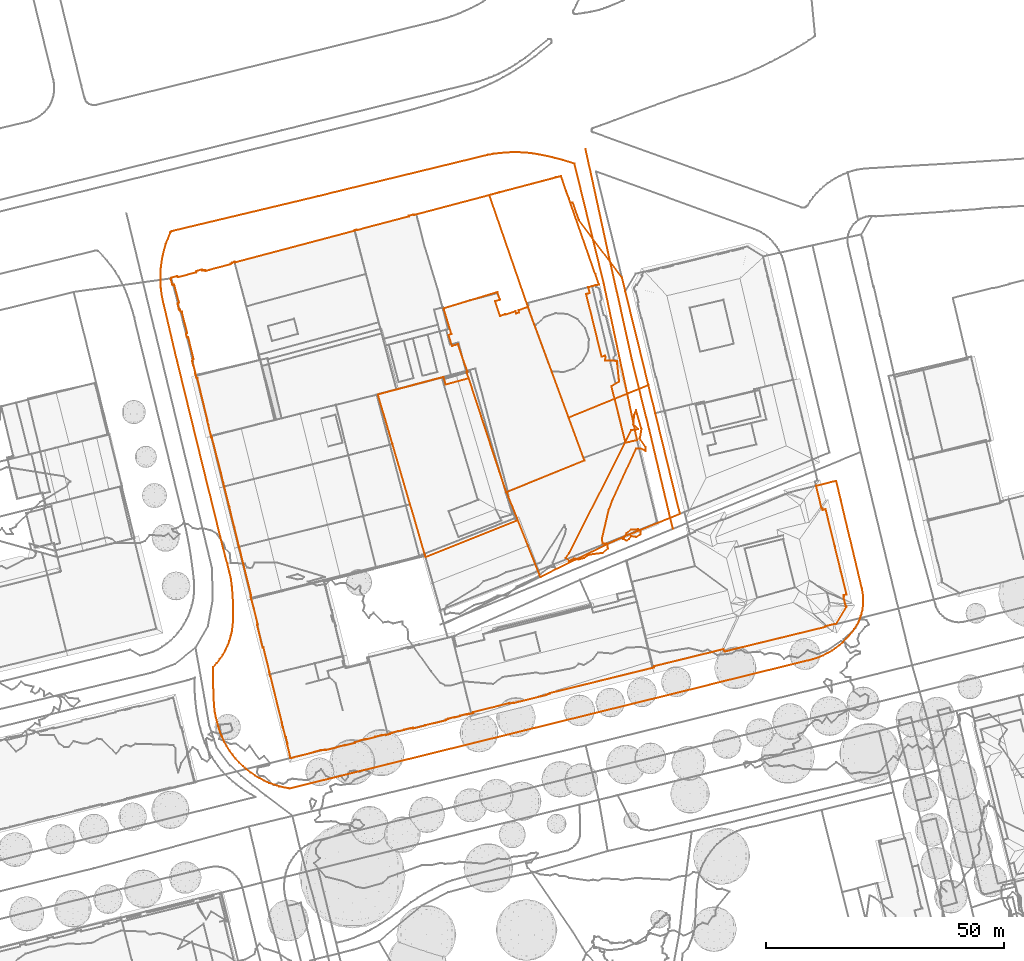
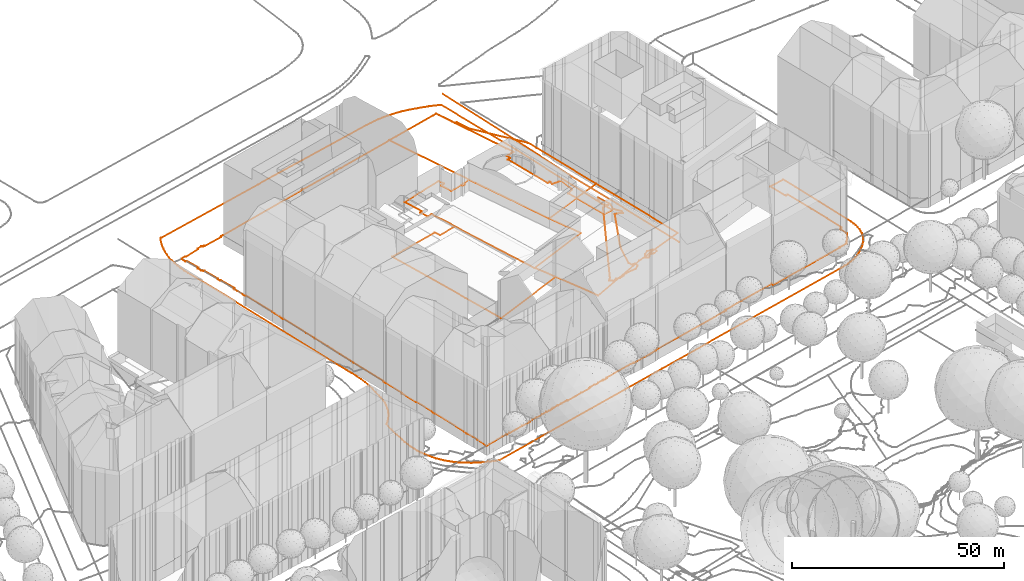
# Not in any storey, part 217 of 494: 8 proxies.
"""IFC2X3 model written with IfcOpenShell, lengths in metres."""

import ifcopenshell
import ifcopenshell.guid

model = None  # the IFC model being written
_history = None  # IfcOwnerHistory: only IFC2X3 demands one
_inside = {}  # id of a spatial element -> (the spatial element, [elements in it])
_under = {}  # id of a project, library or spatial element -> (it, [spatial elements below it])
_declared = {}  # id of a project -> (the project, [libraries it declares])
_typed = {}  # id of a type object -> (the type object, [elements of that type])
_made_of = {}  # id of a material, layer set ... -> (it, [elements and type objects made of it])


def new_model(schema):
    """Start an empty IFC model of exactly this schema.

    Asked for "IFC4X3", IfcOpenShell would pick the latest addendum, in which some entities
    have other attributes; the version numbers below select the first issue.
    IFC2X3 requires an IfcOwnerHistory on every rooted entity: one is made here for all.
    """
    global model, _history
    if schema == "IFC4X3":
        model = ifcopenshell.file(schema_version=(4, 3, 0, 0))
    else:
        model = ifcopenshell.file(schema=schema)
    _inside.clear()
    _under.clear()
    _declared.clear()
    _typed.clear()
    _made_of.clear()
    _history = None
    if model.schema == "IFC2X3":
        org = make("IfcOrganization", Name="unknown")
        user = make(
            "IfcPersonAndOrganization",
            ThePerson=make("IfcPerson", FamilyName="unknown"),
            TheOrganization=org,
        )
        app = make(
            "IfcApplication",
            ApplicationDeveloper=org,
            Version="unknown",
            ApplicationFullName="unknown",
            ApplicationIdentifier="unknown",
        )
        _history = make(
            "IfcOwnerHistory",
            OwningUser=user,
            OwningApplication=app,
            ChangeAction="ADDED",
            CreationDate=0,
        )
    return model


def make(cls, **values):
    """One entity of the class cls with the attributes given. An attribute that is None is left unset."""
    return model.create_entity(
        cls, **{name: value for name, value in values.items() if value is not None}
    )


def entity(cls, *values):
    """Any entity or typed value of the class cls, its attributes in the order of the schema. None: left unset."""
    e = model.create_entity(cls)
    for i, value in enumerate(values):
        if value is not None:
            e[i] = value
    return e


def rooted(cls, **values):
    """An entity with a GlobalId (a new one), such as an element, a storey or a relation."""
    return make(cls, GlobalId=ifcopenshell.guid.new(), OwnerHistory=_history, **values)


def si_unit(unit_type, name, prefix=None):
    """IfcSIUnit, for example si_unit("LENGTHUNIT", "METRE", prefix="MILLI")."""
    return make("IfcSIUnit", UnitType=unit_type, Prefix=prefix, Name=name)


def assignment(units):
    """IfcUnitAssignment: the units of a project."""
    return None if units is None else make("IfcUnitAssignment", Units=units)


def point(xyz):
    """IfcCartesianPoint."""
    return None if xyz is None else make("IfcCartesianPoint", Coordinates=xyz)


def direction(xyz):
    """IfcDirection."""
    return None if xyz is None else make("IfcDirection", DirectionRatios=xyz)


def frame(location, z_axis=None, x_axis=None):
    """IfcAxis2Placement3D, a coordinate frame: its origin and axes. An axis left out is left unset."""
    return make(
        "IfcAxis2Placement3D",
        Location=point(location),
        Axis=direction(z_axis),
        RefDirection=direction(x_axis),
    )


def origin_with_axes():
    """The frame at (0, 0, 0) with the z axis (0, 0, 1) and the x axis (1, 0, 0) written out."""
    return frame((0.0, 0.0, 0.0), z_axis=(0.0, 0.0, 1.0), x_axis=(1.0, 0.0, 0.0))


def place(relative_to, where):
    """IfcLocalPlacement: puts the frame where relative to a parent placement (None: the world)."""
    return make(
        "IfcLocalPlacement", PlacementRelTo=relative_to, RelativePlacement=where
    )


def context(
    kind, dimensions, precision=None, world=None, true_north=None, identifier=None
):
    """IfcGeometricRepresentationContext, for example the 3D "Model" context."""
    return make(
        "IfcGeometricRepresentationContext",
        ContextIdentifier=identifier,
        ContextType=kind,
        CoordinateSpaceDimension=dimensions,
        Precision=precision,
        WorldCoordinateSystem=world,
        TrueNorth=true_north,
    )


def subcontext(parent, identifier, kind, view, scale=None):
    """IfcGeometricRepresentationSubContext, for example "Body" below "Model"."""
    return make(
        "IfcGeometricRepresentationSubContext",
        ContextIdentifier=identifier,
        ContextType=kind,
        ParentContext=parent,
        TargetScale=scale,
        TargetView=view,
    )


def project(units=None, contexts=None):
    """IfcProject with its units and contexts."""
    return rooted(
        "IfcProject",
        Name="project",
        RepresentationContexts=contexts,
        UnitsInContext=assignment(units),
    )


def shape(context_of_items, identifier, shape_type, items):
    """IfcShapeRepresentation: the items that make up one representation, for example the "Body"."""
    return make(
        "IfcShapeRepresentation",
        ContextOfItems=context_of_items,
        RepresentationIdentifier=identifier,
        RepresentationType=shape_type,
        Items=items,
    )


def made_of(thing, what):
    """Note that an element or type object is made of a material, layer set ...; save() writes the relation."""
    if what is not None:
        _made_of.setdefault(what.id(), (what, []))[1].append(thing)
    return thing


def element(
    cls,
    number,
    at=None,
    inside=None,
    cuts=None,
    type_object=None,
    material=None,
    context=None,
    identifier="Body",
    shape_type=None,
    held_by="IfcProductDefinitionShape",
    body=None,
    shapes=None,
    **own,
):
    """One element of the class cls, such as IfcWall. Its Tag is "e" and its number.

    at: its placement. inside: the storey or other place that contains it. cuts: it is an
    opening in that element (IfcRelVoidsElement). A single representation is given by context,
    identifier, shape_type and body (its items); several are given by shapes. held_by: the class
    of the entity that holds the representations. save() writes the other relations.
    """
    e = rooted(cls, Tag="e%d" % number, ObjectPlacement=at, **own)
    if body is not None:
        shapes = [shape(context, identifier, shape_type, body)]
    if shapes is not None:
        e.Representation = make(held_by, Representations=shapes)
    if inside is not None:
        _inside.setdefault(inside.id(), (inside, []))[1].append(e)
    if cuts is not None:
        rooted(
            "IfcRelVoidsElement", RelatingBuildingElement=cuts, RelatedOpeningElement=e
        )
    if type_object is not None:
        _typed.setdefault(type_object.id(), (type_object, []))[1].append(e)
    return made_of(e, material)


def aggregate(whole, parts):
    """IfcRelAggregates: a whole, such as a stair, and the parts it consists of."""
    return rooted("IfcRelAggregates", RelatingObject=whole, RelatedObjects=parts)


def save(model, path):
    """Write the relations noted so far, then the file.

    IfcRelAggregates (storeys below a building ...), IfcRelContainedInSpatialStructure (elements
    in a storey), IfcRelDefinesByType, IfcRelAssociatesMaterial and IfcRelDeclares: one each for
    every whole, place, type object, material and project.
    """
    for whole, parts in _under.values():
        aggregate(whole, parts)
    for where, things in _inside.values():
        rooted(
            "IfcRelContainedInSpatialStructure",
            RelatedElements=things,
            RelatingStructure=where,
        )
    for kind, things in _typed.values():
        rooted("IfcRelDefinesByType", RelatedObjects=things, RelatingType=kind)
    for what, things in _made_of.values():
        rooted("IfcRelAssociatesMaterial", RelatedObjects=things, RelatingMaterial=what)
    for by, libraries in _declared.values():
        rooted("IfcRelDeclares", RelatingContext=by, RelatedDefinitions=libraries)
    model.write(path)


model = new_model("IFC2X3")

# Units and contexts
model_context = context("Model", 3, precision=1e-05, world=origin_with_axes())
body_context = subcontext(model_context, "Body", "Model", "MODEL_VIEW")
ifc_project = project(units=[si_unit("AREAUNIT", "SQUARE_METRE"), si_unit("LENGTHUNIT", "METRE")], contexts=[model_context])

# Proxies
proxy_1_placement = place(None, frame((220.0437320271, 482.1497284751, 542.232), z_axis=(0.0, 0.0, 1.0), x_axis=(1.0, 0.0, 0.0)))
element("IfcBuildingElementProxy", 1, at=proxy_1_placement, Name="Road 24", ObjectType="NOTDEFINED", context=body_context, shape_type="GeometricCurveSet", body=[
    entity("IfcGeometricCurveSet", [entity("IfcPolyline", [entity("IfcCartesianPoint", [0.0, 0.0, 0.0]), entity("IfcCartesianPoint", [4.6949999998, -21.4849993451, -0.089]), entity("IfcCartesianPoint", [9.728999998, -44.2079986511, -0.437]), entity("IfcCartesianPoint", [13.467999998, -59.3079981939, -0.565]), entity("IfcCartesianPoint", [18.3579999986, -79.8729975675, -0.742])])]),
])
proxy_2_placement = place(None, frame((130.9287320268, 455.5297160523, 541.5830187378), z_axis=(0.0, 0.0, 1.0), x_axis=(1.0, 0.0, 0.0)))
element("IfcBuildingElementProxy", 2, at=proxy_2_placement, Name="Roads Outline 12", ObjectType="NOTDEFINED", context=body_context, shape_type="GeometricCurveSet", body=[
    entity("IfcGeometricCurveSet", [entity("IfcPolyline", [entity("IfcCartesianPoint", [0.7709999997, -6.4779999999, -0.0016682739]), entity("IfcCartesianPoint", [0.466, -5.2049999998, 0.0031159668]), entity("IfcCartesianPoint", [0.236, -3.916, 0.0061794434]), entity("IfcCartesianPoint", [0.0809999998, -2.6159999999, 0.0021209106]), entity("IfcCartesianPoint", [0.0019999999, -1.3089999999, 5.23682e-05]), entity("IfcCartesianPoint", [0.0, 0.0, 0.0]), entity("IfcCartesianPoint", [0.0729999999, 1.3080000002, 0.001911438]), entity("IfcCartesianPoint", [0.2220000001, 2.608, 0.0058128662]), entity("IfcCartesianPoint", [0.4469999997, 3.898, 0.0034140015]), entity("IfcCartesianPoint", [0.747, 5.1730000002, -0.0012918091]), entity("IfcCartesianPoint", [1.1200000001, 6.4280000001, -0.0071427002]), entity("IfcCartesianPoint", [1.5660000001, 7.659, 0.0086921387]), entity("IfcCartesianPoint", [2.0819999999, 8.8620000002, 0.0377612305]), entity("IfcCartesianPoint", [2.1519999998, 9.007, 0.0417047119]), entity("IfcCartesianPoint", [2.264, 9.1230000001, 0.0471509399]), entity("IfcCartesianPoint", [2.406, 9.1980000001, 0.0469776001]), entity("IfcCartesianPoint", [2.5649999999, 9.226, 0.0467835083]), entity("IfcCartesianPoint", [33.0219999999, 16.497, 0.2701014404]), entity("IfcCartesianPoint", [67.5189999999, 24.9130000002, 0.2454834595]), entity("IfcCartesianPoint", [68.7149999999, 25.175, 0.2479653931]), entity("IfcCartesianPoint", [69.9199999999, 25.3870000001, 0.250506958]), entity("IfcCartesianPoint", [71.1340000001, 25.5480000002, 0.2530463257]), entity("IfcCartesianPoint", [72.3530000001, 25.6580000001, 0.2555823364]), entity("IfcCartesianPoint", [73.6889999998, 25.719, 0.2584094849]), entity("IfcCartesianPoint", [75.0269999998, 25.719, 0.2611860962]), entity("IfcCartesianPoint", [76.3629999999, 25.6570000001, 0.2640195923]), entity("IfcCartesianPoint", [77.6949999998, 25.5330000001, 0.2667837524]), entity("IfcCartesianPoint", [79.4049999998, 25.2540000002, 0.2703418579]), entity("IfcCartesianPoint", [81.1039999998, 24.915, 0.263743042]), entity("IfcCartesianPoint", [82.79, 24.517, 0.2559685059]), entity("IfcCartesianPoint", [84.1489999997, 24.1500000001, 0.2551099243]), entity("IfcCartesianPoint", [85.497, 23.7440000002, 0.2544456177]), entity("IfcCartesianPoint", [86.8330000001, 23.3, 0.2387869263]), entity("IfcCartesianPoint", [92.9729999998, -1.723, 0.2454085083]), entity("IfcCartesianPoint", [99.9709999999, -34.655, 0.4476865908]), entity("IfcCartesianPoint", [97.5469999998, -35.2019999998, 0.4608101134]), entity("IfcCartesianPoint", [95.2609999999, -25.9889999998, 0.3011609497]), entity("IfcCartesianPoint", [94.5929999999, -23.2989999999, 0.2832200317]), entity("IfcCartesianPoint", [96.1859999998, -22.3969999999, 0.2983380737]), entity("IfcCartesianPoint", [96.1459999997, -21.997, 0.298460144]), entity("IfcCartesianPoint", [95.7450000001, -18.034, 0.2996838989]), entity("IfcCartesianPoint", [93.2549999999, -18.0009999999, 0.2472197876]), entity("IfcCartesianPoint", [93.3319999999, -17.2339999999, 0.2492782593]), entity("IfcCartesianPoint", [93.2629999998, -16.953, 0.2474336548]), entity("IfcCartesianPoint", [92.5249999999, -17.1339999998, 0.2427288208]), entity("IfcCartesianPoint", [89.2999999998, -3.9939999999, 0.224338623]), entity("IfcCartesianPoint", [90.0379999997, -3.8129999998, 0.22852771]), entity("IfcCartesianPoint", [89.7379999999, -2.5889999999, 0.2268248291]), entity("IfcCartesianPoint", [91.284, -2.1869999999, 0.2356003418]), entity("IfcCartesianPoint", [91.9750000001, -2.0229999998, 0.239522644]), entity("IfcCartesianPoint", [91.2179999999, 0.1160000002, 0.235225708]), entity("IfcCartesianPoint", [89.906, 3.845, 0.2277784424]), entity("IfcCartesianPoint", [85.9839999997, 15.0460000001, 0.2542078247]), entity("IfcCartesianPoint", [85.665, 15.9550000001, 0.2543635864]), entity("IfcCartesianPoint", [84.3369999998, 19.78, 0.2550120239]), entity("IfcCartesianPoint", [84.0099999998, 20.723, 0.2551862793]), entity("IfcCartesianPoint", [83.0260000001, 20.463, 0.25578125]), entity("IfcCartesianPoint", [71.1809999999, 17.3250000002, 0.2531438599]), entity("IfcCartesianPoint", [69.338, 16.8370000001, 0.2492636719]), entity("IfcCartesianPoint", [68.986, 16.7440000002, 0.248527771]), entity("IfcCartesianPoint", [53.398, 12.6140000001, 0.2158744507]), entity("IfcCartesianPoint", [53.0449999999, 12.52, 0.2151419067]), entity("IfcCartesianPoint", [53.0090000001, 12.6460000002, 0.2150671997]), entity("IfcCartesianPoint", [52.068, 12.4040000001, 0.2131033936]), entity("IfcCartesianPoint", [52.1030000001, 12.2710000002, 0.2131781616]), entity("IfcCartesianPoint", [41.2059999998, 9.3830000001, 0.3085638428]), entity("IfcCartesianPoint", [41.1719999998, 9.513, 0.3084040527]), entity("IfcCartesianPoint", [40.6949999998, 9.3860000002, 0.3061622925]), entity("IfcCartesianPoint", [40.7289999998, 9.257, 0.3063220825]), entity("IfcCartesianPoint", [15.5919999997, 2.5960000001, 0.1881855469]), entity("IfcCartesianPoint", [15.5649999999, 2.7410000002, 0.1880586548]), entity("IfcCartesianPoint", [15.0379999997, 2.598, 0.1855819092]), entity("IfcCartesianPoint", [15.0779999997, 2.452, 0.1857698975]), entity("IfcCartesianPoint", [14.693, 2.3500000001, 0.1839605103]), entity("IfcCartesianPoint", [14.7239999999, 2.2270000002, 0.1841062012]), entity("IfcCartesianPoint", [9.4309999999, 0.834, 0.2971021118]), entity("IfcCartesianPoint", [9.3999999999, 0.953, 0.2971967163]), entity("IfcCartesianPoint", [9.0179999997, 0.8520000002, 0.2972486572]), entity("IfcCartesianPoint", [8.9899999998, 0.9980000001, 0.2971990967]), entity("IfcCartesianPoint", [8.7849999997, 0.9510000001, 0.2968362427]), entity("IfcCartesianPoint", [8.7399999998, 1.1400000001, 0.2967565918]), entity("IfcCartesianPoint", [7.5859999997, 0.8330000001, 0.2673182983]), entity("IfcCartesianPoint", [7.6229999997, 0.686, 0.2689126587]), entity("IfcCartesianPoint", [7.4739999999, 0.6470000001, 0.2624921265]), entity("IfcCartesianPoint", [7.5060000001, 0.527, 0.2638710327]), entity("IfcCartesianPoint", [3.6850000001, -0.4859999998, 0.0539053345]), entity("IfcCartesianPoint", [3.6529999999, -0.3659999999, 0.0533213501]), entity("IfcCartesianPoint", [3.5460000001, -0.395, 0.0513686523]), entity("IfcCartesianPoint", [3.5079999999, -0.25, 0.0506751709]), entity("IfcCartesianPoint", [2.3670000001, -0.5519999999, 0.0470252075]), entity("IfcCartesianPoint", [2.3799999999, -0.5999999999, 0.0470093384]), entity("IfcCartesianPoint", [2.327, -0.6459999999, 0.0470740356]), entity("IfcCartesianPoint", [2.2849999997, -0.7019999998, 0.0471253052]), entity("IfcCartesianPoint", [2.2560000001, -0.7659999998, 0.0471607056]), entity("IfcCartesianPoint", [2.2420000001, -0.8339999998, 0.0467749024]), entity("IfcCartesianPoint", [2.1839999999, -0.8489999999, 0.0435074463]), entity("IfcCartesianPoint", [2.4929999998, -2.0089999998, 0.0468713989]), entity("IfcCartesianPoint", [2.5989999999, -1.9809999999, 0.0467420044]), entity("IfcCartesianPoint", [2.6319999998, -2.1069999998, 0.0467017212]), entity("IfcCartesianPoint", [2.9029999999, -2.034, 0.0463709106]), entity("IfcCartesianPoint", [3.9219999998, -5.851, 0.0582304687]), entity("IfcCartesianPoint", [3.6809999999, -5.9149999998, 0.0538323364]), entity("IfcCartesianPoint", [3.7139999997, -6.041, 0.0544345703]), entity("IfcCartesianPoint", [3.5979999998, -6.0719999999, 0.0523176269]), entity("IfcCartesianPoint", [3.8759999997, -7.2279999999, 0.0573909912]), entity("IfcCartesianPoint", [3.9709999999, -7.2019999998, 0.0591246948]), entity("IfcCartesianPoint", [4.0189999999, -7.395, 0.0600006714]), entity("IfcCartesianPoint", [4.1329999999, -7.378, 0.0620811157]), entity("IfcCartesianPoint", [4.2220000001, -7.7359999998, 0.0637053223]), entity("IfcCartesianPoint", [4.4939999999, -7.669, 0.0713458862]), entity("IfcCartesianPoint", [5.6289999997, -12.2409999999, 0.1390869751]), entity("IfcCartesianPoint", [5.3569999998, -12.3089999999, 0.1063652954]), entity("IfcCartesianPoint", [5.5669999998, -13.1429999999, 0.1316283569]), entity("IfcCartesianPoint", [5.8359999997, -13.0759999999, 0.1639891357]), entity("IfcCartesianPoint", [6.9699999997, -17.6369999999, 0.2418812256]), entity("IfcCartesianPoint", [6.6979999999, -17.7049999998, 0.231239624]), entity("IfcCartesianPoint", [6.7889999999, -18.071, 0.2347998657]), entity("IfcCartesianPoint", [6.6710000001, -18.0999999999, 0.2301832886]), entity("IfcCartesianPoint", [6.9169999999, -19.0799999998, 0.2398076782]), entity("IfcCartesianPoint", [6.9729999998, -19.0659999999, 0.2419985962]), entity("IfcCartesianPoint", [7.378, -20.7019999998, 0.2583554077]), entity("IfcCartesianPoint", [7.321, -20.716, 0.255899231]), entity("IfcCartesianPoint", [7.4369999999, -21.186, 0.2608977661]), entity("IfcCartesianPoint", [7.5609999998, -21.686, 0.2662410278]), entity("IfcCartesianPoint", [7.7450000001, -21.6399999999, 0.2741697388]), entity("IfcCartesianPoint", [9.8909999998, -30.527, 0.211005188]), entity("IfcCartesianPoint", [9.8199999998, -30.5449999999, 0.2126548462]), entity("IfcCartesianPoint", [10.0549999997, -31.493, 0.1709725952]), entity("IfcCartesianPoint", [10.4410000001, -33.051, 0.1026965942]), entity("IfcCartesianPoint", [10.5269999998, -33.3959999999, 0.0883696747]), entity("IfcCartesianPoint", [10.6129999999, -33.7439999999, 0.0743959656]), entity("IfcCartesianPoint", [10.6719999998, -33.983, 0.0655645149]), entity("IfcCartesianPoint", [10.702, -34.1039999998, 0.0614769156]), entity("IfcCartesianPoint", [10.798, -34.078, 0.0601971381]), entity("IfcCartesianPoint", [12.7059999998, -41.5689999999, -0.1394587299]), entity("IfcCartesianPoint", [13.2719999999, -43.936, -0.1920396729]), entity("IfcCartesianPoint", [13.378, -44.3839999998, -0.201873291]), entity("IfcCartesianPoint", [13.4389999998, -44.6409999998, -0.2075132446]), entity("IfcCartesianPoint", [14.463, -48.7189999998, -0.2965995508]), entity("IfcCartesianPoint", [15.5079999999, -52.95, -0.4069377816]), entity("IfcCartesianPoint", [16.3309999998, -56.3569999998, -0.5380378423]), entity("IfcCartesianPoint", [16.4939999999, -57.017, -0.5578206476]), entity("IfcCartesianPoint", [16.5469999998, -57.1919999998, -0.5603717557]), entity("IfcCartesianPoint", [16.6089999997, -57.4439999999, -0.5643173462]), entity("IfcCartesianPoint", [19.0460000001, -67.2719999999, -0.742845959]), entity("IfcCartesianPoint", [18.9359999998, -67.2999999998, -0.7447531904]), entity("IfcCartesianPoint", [18.8859999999, -67.3119999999, -0.7455786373]), entity("IfcCartesianPoint", [18.997, -67.7579999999, -0.7619240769]), entity("IfcCartesianPoint", [19.1009999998, -68.176, -0.7759363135]), entity("IfcCartesianPoint", [19.1499999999, -68.1639999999, -0.7752164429]), entity("IfcCartesianPoint", [20.4279999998, -73.308, -0.9431282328]), entity("IfcCartesianPoint", [20.273, -73.3459999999, -0.9465376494]), entity("IfcCartesianPoint", [21.4639999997, -78.2049999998, -0.9994837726]), entity("IfcCartesianPoint", [21.6200000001, -78.1669999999, -0.995424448]), entity("IfcCartesianPoint", [22.8840000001, -83.3159999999, -1.0792562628]), entity("IfcCartesianPoint", [22.807, -83.335, -1.0811410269]), entity("IfcCartesianPoint", [22.9129999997, -83.7719999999, -1.0977898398]), entity("IfcCartesianPoint", [23.0109999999, -84.1769999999, -1.1004130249]), entity("IfcCartesianPoint", [23.091, -84.162, -1.0981818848]), entity("IfcCartesianPoint", [25.4869999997, -93.926, -1.331620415]), entity("IfcCartesianPoint", [25.4249999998, -93.9409999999, -1.3337147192]), entity("IfcCartesianPoint", [25.6409999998, -94.8149999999, -1.3533472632]), entity("IfcCartesianPoint", [25.7009999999, -94.7999999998, -1.3521489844]), entity("IfcCartesianPoint", [26.2309999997, -96.9579999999, -1.386026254]), entity("IfcCartesianPoint", [26.3139999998, -96.933, -1.3836411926]), entity("IfcCartesianPoint", [26.656, -98.28, -1.4242941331]), entity("IfcCartesianPoint", [26.5630000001, -98.3119999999, -1.4284755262]), entity("IfcCartesianPoint", [27.1000000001, -100.5009999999, -1.48793811]), entity("IfcCartesianPoint", [27.051, -100.5129999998, -1.4889219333]), entity("IfcCartesianPoint", [27.2649999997, -101.3869999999, -1.5145168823]), entity("IfcCartesianPoint", [28.1289999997, -101.173, -1.488968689]), entity("IfcCartesianPoint", [28.1170000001, -101.1239999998, -1.4886516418]), entity("IfcCartesianPoint", [32.2689999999, -100.0939999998, -1.4231582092]), entity("IfcCartesianPoint", [32.253, -100.034, -1.4208317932]), entity("IfcCartesianPoint", [33.6059999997, -99.7009999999, -1.436501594]), entity("IfcCartesianPoint", [33.625, -99.7579999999, -1.4428966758]), entity("IfcCartesianPoint", [34.5430000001, -99.531, -1.3992990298]), entity("IfcCartesianPoint", [34.5830000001, -99.6899999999, -1.413417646]), entity("IfcCartesianPoint", [36.7949999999, -99.1499999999, -1.3741616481]), entity("IfcCartesianPoint", [36.8149999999, -99.085, -1.3684233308]), entity("IfcCartesianPoint", [38.605, -98.6409999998, -1.3644824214]), entity("IfcCartesianPoint", [38.6570000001, -98.689, -1.3662265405]), entity("IfcCartesianPoint", [40.8739999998, -98.1379999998, -1.3724496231]), entity("IfcCartesianPoint", [40.8359999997, -97.9849999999, -1.3700312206]), entity("IfcCartesianPoint", [41.8199999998, -97.7409999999, -1.363694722]), entity("IfcCartesianPoint", [41.7960000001, -97.6569999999, -1.3601107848]), entity("IfcCartesianPoint", [43.0529999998, -97.3489999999, -1.3552948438]), entity("IfcCartesianPoint", [43.0789999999, -97.429, -1.3585004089]), entity("IfcCartesianPoint", [45.0099999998, -96.949, -1.3366698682]), entity("IfcCartesianPoint", [44.9909999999, -96.875, -1.3337336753]), entity("IfcCartesianPoint", [46.3500000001, -96.5329999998, -1.3386231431]), entity("IfcCartesianPoint", [46.3739999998, -96.6109999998, -1.3381323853]), entity("IfcCartesianPoint", [47.2459999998, -96.395, -1.3156777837]), entity("IfcCartesianPoint", [47.2769999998, -96.5049999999, -1.3168626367]), entity("IfcCartesianPoint", [47.7009999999, -96.3959999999, -1.3114811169]), entity("IfcCartesianPoint", [48.1299999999, -96.2849999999, -1.3031078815]), entity("IfcCartesianPoint", [48.0979999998, -96.1839999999, -1.2995600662]), entity("IfcCartesianPoint", [48.625, -96.0529999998, -1.2908041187]), entity("IfcCartesianPoint", [48.6119999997, -95.993, -1.2887394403]), entity("IfcCartesianPoint", [49.966, -95.645, -1.2742629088]), entity("IfcCartesianPoint", [49.9849999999, -95.7169999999, -1.2743252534]), entity("IfcCartesianPoint", [51.1159999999, -95.4349999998, -1.2754904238]), entity("IfcCartesianPoint", [51.0979999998, -95.3689999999, -1.2761290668]), entity("IfcCartesianPoint", [52.4189999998, -95.0379999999, -1.2848121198]), entity("IfcCartesianPoint", [52.4359999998, -95.108, -1.2836145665]), entity("IfcCartesianPoint", [52.9819999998, -94.973, -1.2855456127]), entity("IfcCartesianPoint", [53.0209999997, -95.129, -1.2814615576]), entity("IfcCartesianPoint", [55.514, -94.5109999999, -1.2506145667]), entity("IfcCartesianPoint", [55.5320000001, -94.45, -1.2468884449]), entity("IfcCartesianPoint", [57.3470000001, -94.0009999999, -1.2008506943]), entity("IfcCartesianPoint", [57.3870000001, -94.0379999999, -1.2020494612]), entity("IfcCartesianPoint", [59.8899999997, -93.4169999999, -1.1735940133]), entity("IfcCartesianPoint", [59.8589999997, -93.2899999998, -1.1716028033]), entity("IfcCartesianPoint", [60.3640000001, -93.1649999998, -1.174115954]), entity("IfcCartesianPoint", [60.3369999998, -93.058, -1.173252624]), entity("IfcCartesianPoint", [61.7050000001, -92.7189999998, -1.1672548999]), entity("IfcCartesianPoint", [61.7319999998, -92.8259999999, -1.1685916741]), entity("IfcCartesianPoint", [62.8279999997, -92.5549999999, -1.1644988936]), entity("IfcCartesianPoint", [62.8019999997, -92.4479999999, -1.1664407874]), entity("IfcCartesianPoint", [64.1809999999, -92.1059999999, -1.164206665]), entity("IfcCartesianPoint", [64.2080000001, -92.213, -1.1627312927]), entity("IfcCartesianPoint", [64.602, -92.115, -1.1609901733]), entity("IfcCartesianPoint", [64.588, -92.058, -1.1612662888]), entity("IfcCartesianPoint", [64.6999999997, -92.03, -1.1603423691]), entity("IfcCartesianPoint", [64.7239999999, -92.128, -1.160126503]), entity("IfcCartesianPoint", [64.8670000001, -92.0919999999, -1.1590384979]), entity("IfcCartesianPoint", [65.2089999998, -92.007, -1.1554928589]), entity("IfcCartesianPoint", [65.483, -91.9399999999, -1.1496449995]), entity("IfcCartesianPoint", [65.5919999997, -91.9129999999, -1.1469981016]), entity("IfcCartesianPoint", [65.5389999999, -91.699, -1.1348893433]), entity("IfcCartesianPoint", [73.165, -89.8189999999, -1.0370227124]), entity("IfcCartesianPoint", [73.182, -89.916, -1.0392012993]), entity("IfcCartesianPoint", [74.0249999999, -89.7149999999, -1.0438544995]), entity("IfcCartesianPoint", [74.0439999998, -89.808, -1.0511992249]), entity("IfcCartesianPoint", [75.1299999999, -89.5389999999, -1.0519818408]), entity("IfcCartesianPoint", [79.8089999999, -88.3799999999, -1.0105452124]), entity("IfcCartesianPoint", [80.9359999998, -88.102, -0.9658019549]), entity("IfcCartesianPoint", [80.912, -87.997, -0.9639718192]), entity("IfcCartesianPoint", [81.7519999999, -87.807, -0.9351552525]), entity("IfcCartesianPoint", [81.73, -87.699, -0.9288724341]), entity("IfcCartesianPoint", [102.9809999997, -82.4639999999, -0.7768208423]), entity("IfcCartesianPoint", [103.3709999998, -82.368, -0.7662581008]), entity("IfcCartesianPoint", [103.5499999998, -82.324, -0.7607394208]), entity("IfcCartesianPoint", [103.4929999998, -82.075, -0.7572149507]), entity("IfcCartesianPoint", [103.6549999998, -82.0349999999, -0.7520969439]), entity("IfcCartesianPoint", [118.1469999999, -78.4739999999, -0.5570623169]), entity("IfcCartesianPoint", [118.2719999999, -79.0009999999, -0.5831803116]), entity("IfcCartesianPoint", [139.5490000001, -73.7959999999, -0.4061179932]), entity("IfcCartesianPoint", [139.5239999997, -73.6599999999, -0.4045424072]), entity("IfcCartesianPoint", [141.4449999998, -73.1909999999, -0.3877448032]), entity("IfcCartesianPoint", [141.6159999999, -73.2859999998, -0.3920697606]), entity("IfcCartesianPoint", [143.8799999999, -69.5559999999, -0.3132097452]), entity("IfcCartesianPoint", [143.7199999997, -69.46, -0.3097341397]), entity("IfcCartesianPoint", [143.2379999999, -67.5189999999, -0.298088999]), entity("IfcCartesianPoint", [143.3849999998, -67.49, -0.295765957]), entity("IfcCartesianPoint", [143.307, -67.1509999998, -0.2954210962]), entity("IfcCartesianPoint", [143.9029999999, -67.007, -0.2885643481]), entity("IfcCartesianPoint", [142.6869999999, -62.0669999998, -0.2074629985]), entity("IfcCartesianPoint", [141.4410000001, -57.0079999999, -0.1586764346]), entity("IfcCartesianPoint", [139.5069999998, -49.155, -0.086323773]), entity("IfcCartesianPoint", [138.9029999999, -49.298, -0.0794823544]), entity("IfcCartesianPoint", [138.821, -48.96, -0.0751704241]), entity("IfcCartesianPoint", [138.6779999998, -49.0059999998, -0.0744133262]), entity("IfcCartesianPoint", [137.503, -44.2389999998, -0.0626241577]), entity("IfcCartesianPoint", [141.7280000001, -43.1969999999, -0.1363171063]), entity("IfcCartesianPoint", [142.7149999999, -47.3289999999, -0.170361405]), entity("IfcCartesianPoint", [147.1089999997, -65.777, -0.4836009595]), entity("IfcCartesianPoint", [147.2829999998, -66.666, -0.5041785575]), entity("IfcCartesianPoint", [147.3799999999, -67.5669999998, -0.5080741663]), entity("IfcCartesianPoint", [147.3999999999, -68.4719999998, -0.5114457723]), entity("IfcCartesianPoint", [147.3429999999, -69.3759999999, -0.5064342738]), entity("IfcCartesianPoint", [147.2080000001, -70.2719999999, -0.5068129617]), entity("IfcCartesianPoint", [146.9979999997, -71.1529999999, -0.5405207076]), entity("IfcCartesianPoint", [146.8640000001, -71.5889999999, -0.5692886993]), entity("IfcCartesianPoint", [146.7109999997, -72.0179999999, -0.5905825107]), entity("IfcCartesianPoint", [146.3729999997, -72.8059999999, -0.6105654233]), entity("IfcCartesianPoint", [145.9729999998, -73.5649999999, -0.6028210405]), entity("IfcCartesianPoint", [145.5120000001, -74.2879999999, -0.6009034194]), entity("IfcCartesianPoint", [144.9939999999, -74.9719999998, -0.6056107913]), entity("IfcCartesianPoint", [144.423, -75.612, -0.630232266]), entity("IfcCartesianPoint", [143.7939999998, -76.321, -0.6165810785]), entity("IfcCartesianPoint", [143.1229999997, -76.99, -0.5899550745]), entity("IfcCartesianPoint", [142.3969999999, -77.6299999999, -0.6657215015]), entity("IfcCartesianPoint", [141.6329999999, -78.2239999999, -0.6588163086]), entity("IfcCartesianPoint", [140.8339999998, -78.7689999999, -0.6712850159]), entity("IfcCartesianPoint", [139.8999999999, -79.3189999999, -0.6411517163]), entity("IfcCartesianPoint", [138.9299999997, -79.8029999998, -0.608780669]), entity("IfcCartesianPoint", [137.929, -80.2189999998, -0.6485741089]), entity("IfcCartesianPoint", [136.9010000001, -80.564, -0.6373681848]), entity("IfcCartesianPoint", [135.852, -80.8369999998, -0.6456495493]), entity("IfcCartesianPoint", [78.7829999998, -94.9409999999, -1.2108051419]), entity("IfcCartesianPoint", [27.142, -107.7109999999, -1.7187210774]), entity("IfcCartesianPoint", [26.0329999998, -107.5209999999, -1.6822523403]), entity("IfcCartesianPoint", [24.9380000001, -107.2619999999, -1.6405156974]), entity("IfcCartesianPoint", [23.8619999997, -106.9369999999, -1.6018101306]), entity("IfcCartesianPoint", [22.807, -106.5449999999, -1.5930884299]), entity("IfcCartesianPoint", [21.7790000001, -106.0889999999, -1.6002822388]), entity("IfcCartesianPoint", [20.7799999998, -105.5699999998, -1.6073730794]), entity("IfcCartesianPoint", [19.8160000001, -104.9909999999, -1.6048544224]), entity("IfcCartesianPoint", [18.889, -104.3529999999, -1.6239455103]), entity("IfcCartesianPoint", [18.0039999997, -103.659, -1.663052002]), entity("IfcCartesianPoint", [17.662, -103.365, -1.6610619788]), entity("IfcCartesianPoint", [17.3259999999, -103.0629999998, -1.6537648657]), entity("IfcCartesianPoint", [16.5439999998, -102.298, -1.6570506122]), entity("IfcCartesianPoint", [15.8089999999, -101.4889999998, -1.6551782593]), entity("IfcCartesianPoint", [15.1229999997, -100.6369999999, -1.6494250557]), entity("IfcCartesianPoint", [14.4899999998, -99.7449999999, -1.6387179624]), entity("IfcCartesianPoint", [13.9099999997, -98.818, -1.6338334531]), entity("IfcCartesianPoint", [13.3859999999, -97.858, -1.5965869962]), entity("IfcCartesianPoint", [12.9210000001, -96.868, -1.5721259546]), entity("IfcCartesianPoint", [12.5149999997, -95.852, -1.5765952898]), entity("IfcCartesianPoint", [12.1699999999, -94.8149999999, -1.5930476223]), entity("IfcCartesianPoint", [11.8879999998, -93.7579999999, -1.5739469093]), entity("IfcCartesianPoint", [11.6119999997, -92.6599999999, -1.5225939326]), entity("IfcCartesianPoint", [11.4040000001, -91.548, -1.4731436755]), entity("IfcCartesianPoint", [11.2649999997, -90.4249999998, -1.434394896]), entity("IfcCartesianPoint", [11.196, -89.2949999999, -1.3919101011]), entity("IfcCartesianPoint", [11.1030000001, -86.95, -1.3564287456]), entity("IfcCartesianPoint", [11.0579999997, -84.6029999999, -1.2811331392]), entity("IfcCartesianPoint", [11.0609999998, -82.2559999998, -1.2405012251]), entity("IfcCartesianPoint", [11.7879999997, -81.456, -1.2048638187]), entity("IfcCartesianPoint", [12.4529999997, -80.605, -1.1561732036]), entity("IfcCartesianPoint", [13.0549999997, -79.7079999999, -1.1261306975]), entity("IfcCartesianPoint", [13.588, -78.7679999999, -1.1069992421]), entity("IfcCartesianPoint", [14.051, -77.7919999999, -1.0725868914]), entity("IfcCartesianPoint", [14.4410000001, -76.784, -1.0148473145]), entity("IfcCartesianPoint", [14.7549999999, -75.7509999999, -0.976852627]), entity("IfcCartesianPoint", [14.9929999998, -74.6969999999, -0.9839723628]), entity("IfcCartesianPoint", [15.1519999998, -73.628, -0.959857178]), entity("IfcCartesianPoint", [15.2319999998, -72.5499999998, -0.942283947]), entity("IfcCartesianPoint", [15.233, -71.47, -0.9285743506]), entity("IfcCartesianPoint", [15.2489999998, -69.9299999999, -0.8995053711]), entity("IfcCartesianPoint", [15.2149999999, -68.3909999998, -0.8386193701]), entity("IfcCartesianPoint", [15.1289999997, -66.8539999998, -0.8004206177]), entity("IfcCartesianPoint", [14.9909999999, -65.3199999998, -0.7888749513]), entity("IfcCartesianPoint", [14.8029999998, -63.7919999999, -0.7671627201]), entity("IfcCartesianPoint", [14.4369999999, -62.1739999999, -0.7085374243]), entity("IfcCartesianPoint", [14.0359999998, -60.5649999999, -0.6446220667]), entity("IfcCartesianPoint", [13.5979999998, -58.9649999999, -0.6455407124]), entity("IfcCartesianPoint", [12.6059999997, -55.1139999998, -0.5626603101]), entity("IfcCartesianPoint", [3.594, -18.4379999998, 0.0522446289]), entity("IfcCartesianPoint", [0.7709999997, -6.4779999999, -0.0016682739])])]),
])
proxy_3_placement = place(None, frame((190.3127320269, 448.5127160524, 541.8114373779), z_axis=(0.0, 0.0, 1.0), x_axis=(1.0, 0.0, 0.0)))
element("IfcBuildingElementProxy", 3, at=proxy_3_placement, Name="Cadastre 2", ObjectType="NOTDEFINED", context=body_context, shape_type="GeometricCurveSet", body=[
    entity("IfcGeometricCurveSet", [entity("IfcPolyline", [entity("IfcCartesianPoint", [0.0, 0.0, 0.0]), entity("IfcCartesianPoint", [11.2769999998, 3.4130000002, 0.0236461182]), entity("IfcCartesianPoint", [11.824, 1.8120000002, 0.02478125]), entity("IfcCartesianPoint", [10.8089999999, 1.4990000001, 0.0226715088]), entity("IfcCartesianPoint", [11.8529999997, -1.5899999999, 0.0248414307]), entity("IfcCartesianPoint", [12.8729999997, -1.2439999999, 0.0269586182]), entity("IfcCartesianPoint", [12.9039999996, -1.338, 0.0270248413]), entity("IfcCartesianPoint", [15.0699999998, -0.6159999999, 0.0315783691]), entity("IfcCartesianPoint", [15.2259999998, -1.0699999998, 0.0319020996]), entity("IfcCartesianPoint", [15.8629999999, -0.8439999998, 0.033223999]), entity("IfcCartesianPoint", [15.7049999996, -0.3899999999, 0.0328961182]), entity("IfcCartesianPoint", [17.7219999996, 0.3080000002, 0.0371428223]), entity("IfcCartesianPoint", [18.449, -1.7889999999, 0.0386514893]), entity("IfcCartesianPoint", [26.2399999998, -22.9079999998, -0.0418535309]), entity("IfcCartesianPoint", [29.5519999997, -31.8839999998, 0.0909111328]), entity("IfcCartesianPoint", [13.2349999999, -38.5259999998, -0.2419332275]), entity("IfcCartesianPoint", [13.1349999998, -38.5669999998, -0.2439691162]), entity("IfcCartesianPoint", [5.2759999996, -14.6679999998, 0.0110708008]), entity("IfcCartesianPoint", [4.8429999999, -13.352, 0.0101708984]), entity("IfcCartesianPoint", [4.9929999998, -13.301, 0.0104835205]), entity("IfcCartesianPoint", [3.0149999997, -7.4989999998, 0.006317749]), entity("IfcCartesianPoint", [1.7719999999, -7.8769999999, 0.003732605]), entity("IfcCartesianPoint", [1.0409999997, -5.5699999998, 0.0021710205]), entity("IfcCartesianPoint", [1.6399999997, -5.3809999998, 0.0034506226]), entity("IfcCartesianPoint", [0.0, 0.0, 0.0])])]),
])
proxy_4_placement = place(None, frame((199.9147320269, 472.2737160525, 541.8315465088), z_axis=(0.0, 0.0, 1.0), x_axis=(1.0, 0.0, 0.0)))
element("IfcBuildingElementProxy", 4, at=proxy_4_placement, Name="Cadastre 3", ObjectType="NOTDEFINED", context=body_context, shape_type="GeometricCurveSet", body=[
    entity("IfcGeometricCurveSet", [entity("IfcPolyline", [entity("IfcCartesianPoint", [0.0, 0.0, 0.0]), entity("IfcCartesianPoint", [15.0239999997, 3.98, 0.0066585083]), entity("IfcCartesianPoint", [16.9979999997, -1.6980000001, 0.0056800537]), entity("IfcCartesianPoint", [17.4720000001, -1.534, 7.8186e-05]), entity("IfcCartesianPoint", [18.7859999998, -5.2650000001, -0.0256131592]), entity("IfcCartesianPoint", [27.8229999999, -17.3160000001, 0.0338612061]), entity("IfcCartesianPoint", [28.5159999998, -20.1410000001, 0.0455238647]), entity("IfcCartesianPoint", [33.3489999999, -39.8430000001, -0.0473608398]), entity("IfcCartesianPoint", [26.2749999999, -42.733, 0.0526331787]), entity("IfcCartesianPoint", [16.6379999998, -46.669, -0.0619626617]), entity("IfcCartesianPoint", [8.8470000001, -25.55, 0.0185423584]), entity("IfcCartesianPoint", [8.1199999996, -23.453, 0.0170336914]), entity("IfcCartesianPoint", [0.0, 0.0, 0.0])])]),
])
proxy_5_placement = place(None, frame((203.5477320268, 409.9867160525, 541.5695041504), z_axis=(0.0, 0.0, 1.0), x_axis=(1.0, 0.0, 0.0)))
element("IfcBuildingElementProxy", 5, at=proxy_5_placement, Name="Cadastre 8", ObjectType="NOTDEFINED", context=body_context, shape_type="GeometricCurveSet", body=[
    entity("IfcGeometricCurveSet", [entity("IfcPolyline", [entity("IfcCartesianPoint", [0.0, 0.0, 0.0]), entity("IfcCartesianPoint", [16.3169999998, 6.642, 0.3328443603]), entity("IfcCartesianPoint", [13.0049999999, 15.618, 0.2000796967]), entity("IfcCartesianPoint", [22.642, 19.554, 0.3146755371]), entity("IfcCartesianPoint", [29.716, 22.4439999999, 0.2146815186]), entity("IfcCartesianPoint", [31.1669999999, 16.5329999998, 0.2191250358]), entity("IfcCartesianPoint", [36.3419999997, -4.5650000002, 0.1227926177]), entity("IfcCartesianPoint", [22.483, -10.2440000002, 0.399905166]), entity("IfcCartesianPoint", [7.0759999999, -17.784, 0.3582530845]), entity("IfcCartesianPoint", [2.3390000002, -5.8800000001, 0.1661663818]), entity("IfcCartesianPoint", [0.0, 0.0, 0.0])])]),
])
proxy_6_placement = place(None, frame((176.5447320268, 430.4507160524, 541.8249715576), z_axis=(0.0, 0.0, 1.0), x_axis=(1.0, 0.0, 0.0)))
element("IfcBuildingElementProxy", 6, at=proxy_6_placement, Name="Cadastre 10", ObjectType="NOTDEFINED", context=body_context, shape_type="GeometricCurveSet", body=[
    entity("IfcGeometricCurveSet", [entity("IfcPolyline", [entity("IfcCartesianPoint", [0.0, 0.0, 0.0]), entity("IfcCartesianPoint", [3.8989999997, 1.044, -0.013704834]), entity("IfcCartesianPoint", [13.7489999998, 3.6810000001, -0.0135736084]), entity("IfcCartesianPoint", [14.2259999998, 2.0819999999, -0.0125837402]), entity("IfcCartesianPoint", [18.8289999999, 3.3359999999, -0.0029095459]), entity("IfcCartesianPoint", [19.0439999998, 3.3940000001, -0.0024633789]), entity("IfcCartesianPoint", [26.9029999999, -20.5049999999, -0.2575032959]), entity("IfcCartesianPoint", [27.003, -20.4639999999, -0.2554674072]), entity("IfcCartesianPoint", [29.3420000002, -26.344, -0.0893010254]), entity("IfcCartesianPoint", [9.9929999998, -34.101, -0.4767073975]), entity("IfcCartesianPoint", [9.8620000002, -33.635, -0.4970812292]), entity("IfcCartesianPoint", [6.7579999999, -23.05, -0.3129918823]), entity("IfcCartesianPoint", [3.0520000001, -10.412, -0.1212744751]), entity("IfcCartesianPoint", [0.0, 0.0, 0.0])])]),
])
proxy_7_placement = place(None, frame((227.9926670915, 400.1707160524, 542.0), z_axis=(0.0, 0.0, 1.0), x_axis=(1.0, 0.0, 0.0)))
element("IfcBuildingElementProxy", 7, at=proxy_7_placement, Name="Contour Line 542.0 m", ObjectType="NOTDEFINED", context=body_context, shape_type="GeometricCurveSet", body=[
    entity("IfcGeometricCurveSet", [entity("IfcPolyline", [entity("IfcCartesianPoint", [1.1761432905, 0.0, 0.0]), entity("IfcCartesianPoint", [0.6850649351, -0.4034416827, 0.0]), entity("IfcCartesianPoint", [0.0, 0.0, 0.0]), entity("IfcCartesianPoint", [0.6850649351, 1.252088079, 0.0]), entity("IfcCartesianPoint", [1.6850649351, 1.9748549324, 0.0]), entity("IfcCartesianPoint", [3.1636363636, 2.0, 0.0]), entity("IfcCartesianPoint", [3.6850649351, 1.5705882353, 0.0]), entity("IfcCartesianPoint", [3.6850649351, 0.9543529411, 0.0]), entity("IfcCartesianPoint", [2.6850649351, 0.4176470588, 0.0]), entity("IfcCartesianPoint", [1.6850649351, 0.5655172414, 0.0]), entity("IfcCartesianPoint", [1.1761432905, 0.0, 0.0])])]),
])
proxy_8_placement = place(None, frame((215.8583548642, 396.1707160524, 542.0), z_axis=(0.0, 0.0, 1.0), x_axis=(1.0, 0.0, 0.0)))
element("IfcBuildingElementProxy", 8, at=proxy_8_placement, Name="Contour Line 542.0 m", ObjectType="NOTDEFINED", context=body_context, shape_type="GeometricCurveSet", body=[
    entity("IfcGeometricCurveSet", [entity("IfcPolyline", [entity("IfcCartesianPoint", [3.9245258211, 0.0, 0.0]), entity("IfcCartesianPoint", [2.8193771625, -0.3335676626, 0.0]), entity("IfcCartesianPoint", [1.8193771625, -0.1135469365, 0.0]), entity("IfcCartesianPoint", [0.8193771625, -0.6109391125, 0.0]), entity("IfcCartesianPoint", [0.0, 0.0, 0.0]), entity("IfcCartesianPoint", [0.789288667, 1.0, 0.0]), entity("IfcCartesianPoint", [13.8193771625, 26.7951002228, 0.0]), entity("IfcCartesianPoint", [15.2577657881, 27.0, 0.0]), entity("IfcCartesianPoint", [14.2505546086, 28.0, 0.0]), entity("IfcCartesianPoint", [14.4235537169, 30.0, 0.0]), entity("IfcCartesianPoint", [14.8193771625, 30.9586206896, 0.0]), entity("IfcCartesianPoint", [15.9495969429, 27.0, 0.0]), entity("IfcCartesianPoint", [15.6094360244, 25.0, 0.0]), entity("IfcCartesianPoint", [16.8193771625, 23.2729528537, 0.0]), entity("IfcCartesianPoint", [16.8193771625, 22.45, 0.0]), entity("IfcCartesianPoint", [15.8193771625, 22.9426546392, 0.0]), entity("IfcCartesianPoint", [14.8193771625, 22.9663299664, 0.0]), entity("IfcCartesianPoint", [9.8116907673, 12.0, 0.0]), entity("IfcCartesianPoint", [9.0652005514, 10.0, 0.0]), entity("IfcCartesianPoint", [7.645464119, 4.0, 0.0]), entity("IfcCartesianPoint", [7.8193771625, 3.0280373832, 0.0]), entity("IfcCartesianPoint", [8.8193771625, 2.9527027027, 0.0]), entity("IfcCartesianPoint", [8.9197330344, 2.0, 0.0]), entity("IfcCartesianPoint", [7.8193771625, 1.0598086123, 0.0]), entity("IfcCartesianPoint", [4.8193771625, 0.645060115, 0.0]), entity("IfcCartesianPoint", [3.9245258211, 0.0, 0.0])])]),
])

save(model, "model.ifc")
